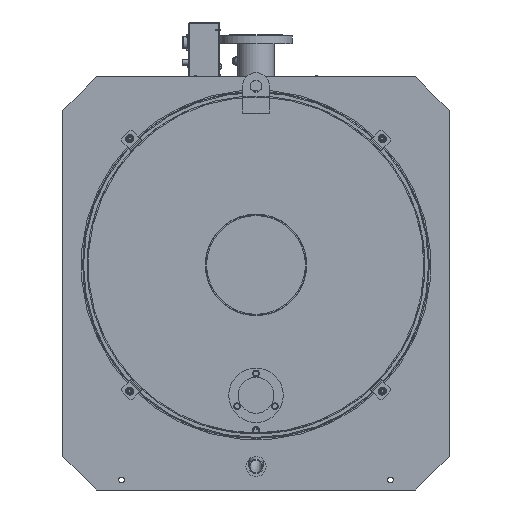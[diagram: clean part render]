
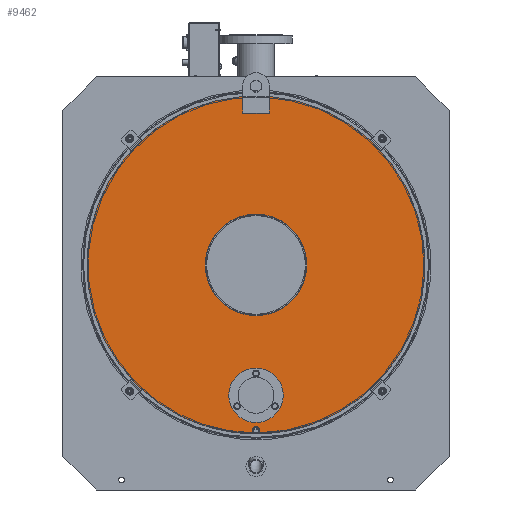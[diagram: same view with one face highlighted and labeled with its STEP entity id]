
A CAD part, left-side view. The second image highlights one B-rep face of the part: STEP entity #9462.
In plain terms, the highlighted planar face has unit normal (-1, 0, 0).
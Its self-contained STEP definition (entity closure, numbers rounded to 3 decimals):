
#9462=ADVANCED_FACE('',(#40867,#40869,#40871),#40873,.T.);
#40867=FACE_BOUND('',#40868,.T.);
#40868=EDGE_LOOP('',(#95577,#95578,#95579,#95580,#95581,#95582,#95583,#95584,#95585));
#40869=FACE_BOUND('',#40870,.T.);
#40870=EDGE_LOOP('',(#95586));
#40871=FACE_BOUND('',#40872,.T.);
#40872=EDGE_LOOP('',(#95587));
#40873=PLANE('',#40874);
#40874=AXIS2_PLACEMENT_3D('',#40875,#40876,#40877);
#40875=CARTESIAN_POINT('',(-1871.,0.,0.));
#40876=DIRECTION('',(-1.,0.,0.));
#40877=DIRECTION('',(0.,-1.,0.));
#95577=ORIENTED_EDGE('',*,*,#109194,.F.);
#95578=ORIENTED_EDGE('',*,*,#109195,.F.);
#95579=ORIENTED_EDGE('',*,*,#109196,.F.);
#95580=ORIENTED_EDGE('',*,*,#109174,.T.);
#95581=ORIENTED_EDGE('',*,*,#109173,.T.);
#95582=ORIENTED_EDGE('',*,*,#109197,.T.);
#95583=ORIENTED_EDGE('',*,*,#109198,.T.);
#95584=ORIENTED_EDGE('',*,*,#109199,.T.);
#95585=ORIENTED_EDGE('',*,*,#109176,.T.);
#95586=ORIENTED_EDGE('',*,*,#109200,.T.);
#95587=ORIENTED_EDGE('',*,*,#109201,.F.);
#109173=EDGE_CURVE('',#118659,#118657,#118660,.T.);
#109174=EDGE_CURVE('',#118661,#118659,#118662,.T.);
#109176=EDGE_CURVE('',#118665,#118663,#118666,.T.);
#109194=EDGE_CURVE('',#118697,#118663,#118698,.T.);
#109195=EDGE_CURVE('',#118699,#118697,#118700,.T.);
#109196=EDGE_CURVE('',#118661,#118699,#118701,.T.);
#109197=EDGE_CURVE('',#118657,#118702,#118703,.F.);
#109198=EDGE_CURVE('',#118702,#118704,#118705,.F.);
#109199=EDGE_CURVE('',#118704,#118665,#118706,.F.);
#109200=EDGE_CURVE('',#118707,#118707,#118708,.F.);
#109201=EDGE_CURVE('',#118709,#118709,#118710,.T.);
#118657=VERTEX_POINT('',#143808);
#118659=VERTEX_POINT('',#143812);
#118660=CIRCLE('',#143813,503.);
#118661=VERTEX_POINT('',#143817);
#118662=CIRCLE('',#143818,503.);
#118663=VERTEX_POINT('',#143822);
#118665=VERTEX_POINT('',#143827);
#118666=CIRCLE('',#143828,503.);
#118697=VERTEX_POINT('',#143910);
#118698=LINE('',#143911,#143912);
#118699=VERTEX_POINT('',#143914);
#118700=LINE('',#143915,#143916);
#118701=LINE('',#143918,#143919);
#118702=VERTEX_POINT('',#143921);
#118703=LINE('',#143922,#143923);
#118704=VERTEX_POINT('',#143925);
#118705=CIRCLE('',#143926,11.);
#118706=LINE('',#143930,#143931);
#118707=VERTEX_POINT('',#143933);
#118708=CIRCLE('',#143934,151.);
#118709=VERTEX_POINT('',#143938);
#118710=CIRCLE('',#143939,81.);
#143808=CARTESIAN_POINT('',(-1871.,4.583,-502.979));
#143812=CARTESIAN_POINT('',(-1871.,355.407,-355.942));
#143813=AXIS2_PLACEMENT_3D('',#143814,#143815,#143816);
#143814=CARTESIAN_POINT('',(-1871.,0.,0.));
#143815=DIRECTION('',(-1.,0.,0.));
#143816=DIRECTION('',(0.,0.707,-0.708));
#143817=CARTESIAN_POINT('',(-1871.,40.,501.407));
#143818=AXIS2_PLACEMENT_3D('',#143819,#143820,#143821);
#143819=CARTESIAN_POINT('',(-1871.,0.,0.));
#143820=DIRECTION('',(-1.,0.,0.));
#143821=DIRECTION('',(0.,0.08,0.997));
#143822=CARTESIAN_POINT('',(-1871.,-40.,501.407));
#143827=CARTESIAN_POINT('',(-1871.,-4.583,-502.979));
#143828=AXIS2_PLACEMENT_3D('',#143829,#143830,#143831);
#143829=CARTESIAN_POINT('',(-1871.,0.,0.));
#143830=DIRECTION('',(-1.,0.,0.));
#143831=DIRECTION('',(0.,-0.009,-1.));
#143910=CARTESIAN_POINT('',(-1871.,-40.,452.));
#143911=CARTESIAN_POINT('',(-1871.,-40.,452.));
#143912=VECTOR('',#143913,1.);
#143913=DIRECTION('',(0.,0.,1.));
#143914=CARTESIAN_POINT('',(-1871.,40.,452.));
#143915=CARTESIAN_POINT('',(-1871.,40.,452.));
#143916=VECTOR('',#143917,1.);
#143917=DIRECTION('',(0.,-1.,0.));
#143918=CARTESIAN_POINT('',(-1871.,40.,501.407));
#143919=VECTOR('',#143920,1.);
#143920=DIRECTION('',(0.,0.,-1.));
#143921=CARTESIAN_POINT('',(-1871.,4.583,-502.));
#143922=CARTESIAN_POINT('',(-1871.,4.583,-502.));
#143923=VECTOR('',#143924,1.);
#143924=DIRECTION('',(0.,0.,-1.));
#143925=CARTESIAN_POINT('',(-1871.,-4.583,-502.));
#143926=AXIS2_PLACEMENT_3D('',#143927,#143928,#143929);
#143927=CARTESIAN_POINT('',(-1871.,0.,-492.));
#143928=DIRECTION('',(-1.,0.,0.));
#143929=DIRECTION('',(0.,-0.417,-0.909));
#143930=CARTESIAN_POINT('',(-1871.,-4.583,-502.979));
#143931=VECTOR('',#143932,1.);
#143932=DIRECTION('',(0.,0.,1.));
#143933=CARTESIAN_POINT('',(-1871.,-151.,0.));
#143934=AXIS2_PLACEMENT_3D('',#143935,#143936,#143937);
#143935=CARTESIAN_POINT('',(-1871.,0.,0.));
#143936=DIRECTION('',(-1.,0.,0.));
#143937=DIRECTION('',(0.,-1.,0.));
#143938=CARTESIAN_POINT('',(-1871.,-81.,-388.));
#143939=AXIS2_PLACEMENT_3D('',#143940,#143941,#143942);
#143940=CARTESIAN_POINT('',(-1871.,0.,-388.));
#143941=DIRECTION('',(-1.,0.,0.));
#143942=DIRECTION('',(0.,-1.,0.));
